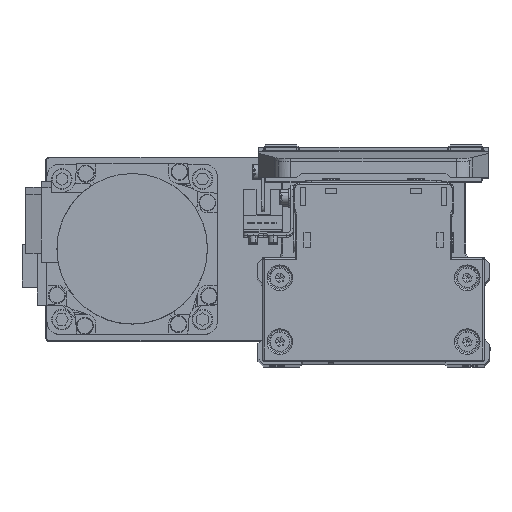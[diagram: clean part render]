
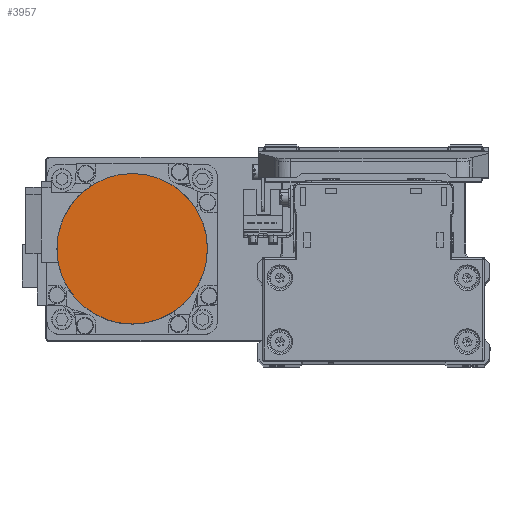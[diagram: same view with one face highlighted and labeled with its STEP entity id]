
A CAD part, top view. The second image highlights one B-rep face of the part: STEP entity #3957.
In plain terms, the highlighted planar face has unit normal (0, 0, 1) as drawn and (0, 0, -1) by its records, which use the part's own axes.
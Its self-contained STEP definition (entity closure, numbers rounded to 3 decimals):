
#2805 = PLANE ( 'NONE',  #21803 ) ;
#3957 = ADVANCED_FACE ( 'NONE', ( #31031 ), #2805, .F. ) ;
#7036 = EDGE_LOOP ( 'NONE', ( #20416, #10961 ) ) ;
#8604 = AXIS2_PLACEMENT_3D ( 'NONE', #26844, #39388, #11176 ) ;
#10961 = ORIENTED_EDGE ( 'NONE', *, *, #12755, .F. ) ;
#11176 = DIRECTION ( 'NONE',  ( 1., 0., 0. ) ) ;
#11801 = DIRECTION ( 'NONE',  ( -1., 0., 0. ) ) ;
#12755 = EDGE_CURVE ( 'NONE', #20383, #34036, #26376, .T. ) ;
#14810 = AXIS2_PLACEMENT_3D ( 'NONE', #27461, #40013, #11801 ) ;
#15378 = CARTESIAN_POINT ( 'NONE',  ( 0., 0., -109.7 ) ) ;
#17640 = CARTESIAN_POINT ( 'NONE',  ( -26.5, 0., -109.7 ) ) ;
#20383 = VERTEX_POINT ( 'NONE', #31831 ) ;
#20416 = ORIENTED_EDGE ( 'NONE', *, *, #24550, .F. ) ;
#21803 = AXIS2_PLACEMENT_3D ( 'NONE', #15378, #27946, #40511 ) ;
#24550 = EDGE_CURVE ( 'NONE', #34036, #20383, #32577, .T. ) ;
#26376 = CIRCLE ( 'NONE', #8604, 26.5 ) ;
#26844 = CARTESIAN_POINT ( 'NONE',  ( 0., 0., -109.7 ) ) ;
#27461 = CARTESIAN_POINT ( 'NONE',  ( 0., 0., -109.7 ) ) ;
#27946 = DIRECTION ( 'NONE',  ( 0., 0., 1. ) ) ;
#31031 = FACE_OUTER_BOUND ( 'NONE', #7036, .T. ) ;
#31831 = CARTESIAN_POINT ( 'NONE',  ( 26.5, 0., -109.7 ) ) ;
#32577 = CIRCLE ( 'NONE', #14810, 26.5 ) ;
#34036 = VERTEX_POINT ( 'NONE', #17640 ) ;
#39388 = DIRECTION ( 'NONE',  ( 0., 0., 1. ) ) ;
#40013 = DIRECTION ( 'NONE',  ( 0., 0., 1. ) ) ;
#40511 = DIRECTION ( 'NONE',  ( 1., 0., 0. ) ) ;
